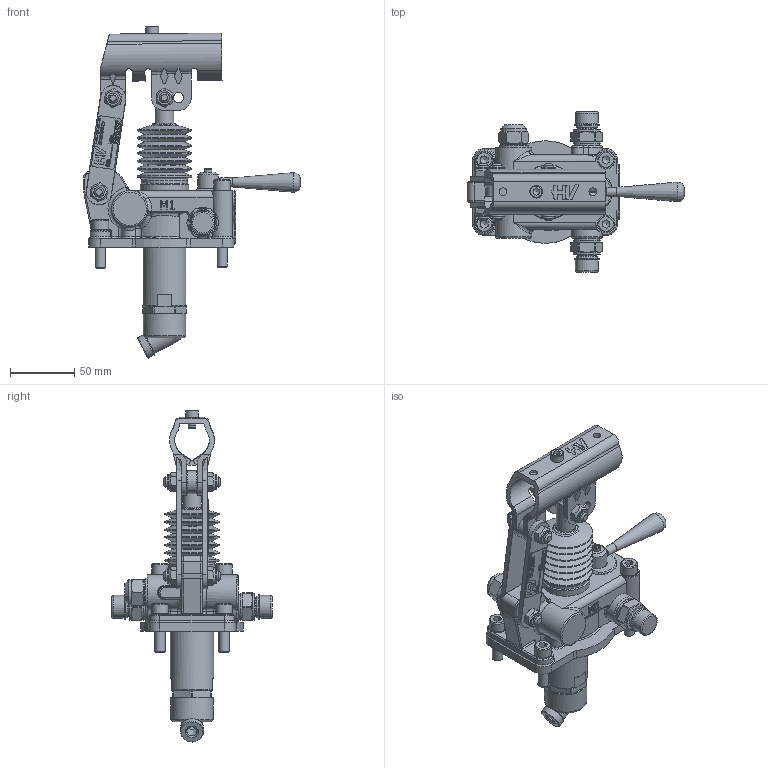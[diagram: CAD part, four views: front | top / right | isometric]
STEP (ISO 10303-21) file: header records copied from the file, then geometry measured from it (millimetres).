
FILE_DESCRIPTION((''),'2;1');
FILE_NAME('G:\HV_HYDRAULIC\AZIENDA_HV_HYDRAULIC\ARCHIVIO_DISEGNI\5_PRODOTTI_FINITI\1_POMPE_MANUALI\6055_PMD_12\6055.0051_PMD_12_dna-byB-s_(HV)\6055.0051.stp','2024-02-29T16:04:13',('christian.scardovi'),(''),'Autodesk Inventor 2013','Autodesk Inventor 2013','');
FILE_SCHEMA(('AUTOMOTIVE_DESIGN { 1 0 10303 214 1 1 1 1 }'));
Length unit declared in the file: millimetre
Products named in the file (1): 6055.0051
Bounding box: 169 x 125 x 258.81 mm (x, y, z)
Volume: 469580.1 mm3; surface area: 123354.7 mm2
Topology: 3 solids, 3 shells, 1555 faces, 3922 edges, 2484 vertices
Faces by surface type: plane 758, cylinder 332, bspline 184, cone 156, torus 111, sphere 14
Full cylindrical faces by diameter (mm): 4 x3, 4.917 x1, 5 x7, 6 x7, 6.5 x1, 7 x1, 8 x15, 8.566 x1, 9 x3, 9.2 x1, 10 x3, 10.376 x1, 11.05 x6, 11.445 x2, 12 x5, 13 x4, 13.2 x1, 14 x4, 14.5 x1, 14.6 x1, 14.95 x2, 15 x1, 15.9 x2, 16 x5, 16.6 x4, 17 x1, 18 x6, 19 x2, 20 x6, 21 x6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
Entity records: 48487 total; most frequent: CARTESIAN_POINT 12489, ORIENTED_EDGE 7112, DIRECTION 6623, EDGE_CURVE 3556, VERTEX_POINT 2387, AXIS2_PLACEMENT_3D 2366, EDGE_LOOP 1961, VECTOR 1891
